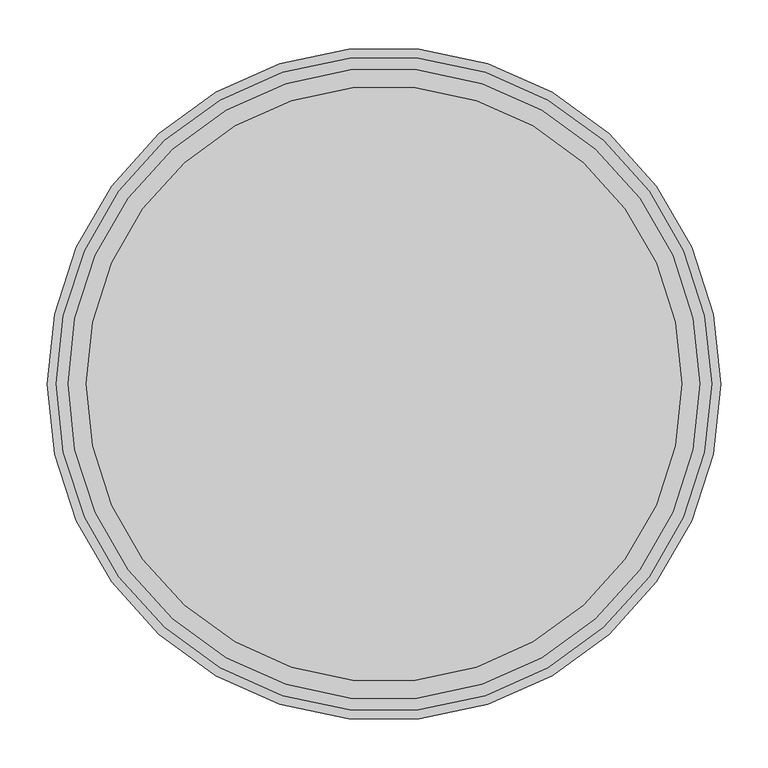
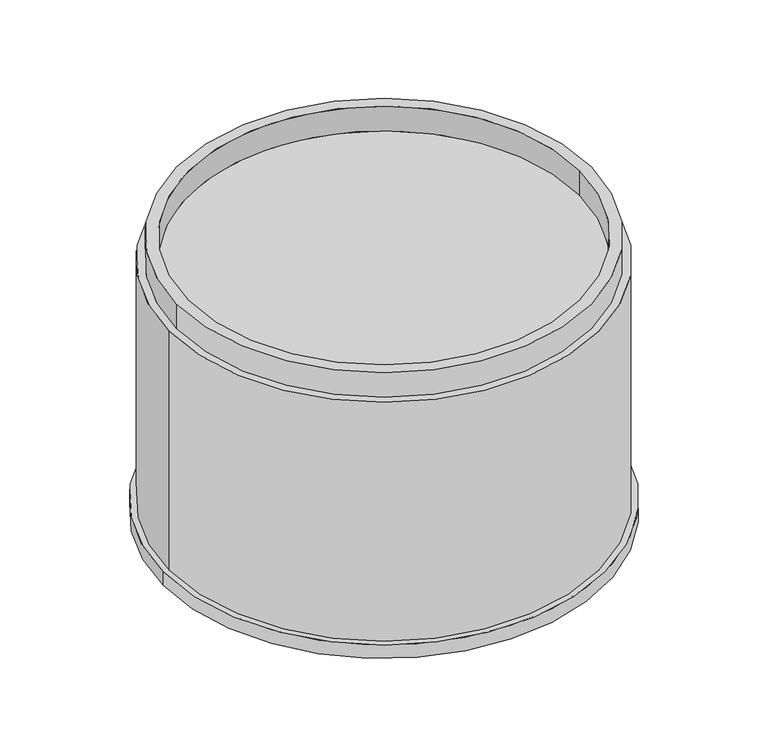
"""IFC4 building model written with IfcOpenShell, lengths in millimetres: valve geometry, Pipelife - Studnia PRO 630 - Kineta studni ślepa : 630 ślepa."""

from ifc_helpers import new_model, si_unit, point, frame, origin, origin_with_axes, origin_2d, place, context, project, spatial, polyline, circle_curve, trimmed, segment, composite_curve, outline, extrude, source, transform, mapped, element, save
from ifc_brep_helpers import plane_surface, cylinder_surface, revolved_surface, advanced_brep


def valve_56759144(model_context):
    return source(origin(), model_context, "Body", "SolidModel", [
        advanced_brep(
        [(346.5, 0.0, 23.0), (-346.5, 0.0, 23.0), (346.5, 0.0, 430.0), (-346.5, 0.0, 430.0), (334.0, 0.0, 430.0), (-334.0, 0.0, 430.0), (315.0, 0.0, 430.0), (-315.0, 0.0, 430.0), (334.0, 0.0, 472.0), (-334.0, 0.0, 472.0), (315.0, 0.0, 472.0), (-315.0, 0.0, 472.0)],
        [
            (0, 1, circle_curve(frame((0.0, 0.0, 23.0), z_axis=(0.0, 0.0, -1.0), x_axis=(-1.0, 0.0, 0.0)), 346.5)),
            (1, 0, circle_curve(frame((0.0, 0.0, 23.0), z_axis=(0.0, 0.0, -1.0), x_axis=(-1.0, 0.0, 0.0)), 346.5)),
            (2, 3, circle_curve(frame((0.0, 0.0, 430.0), z_axis=(0.0, 0.0, 1.0), x_axis=(-1.0, 0.0, 0.0)), 346.5)),
            (3, 2, circle_curve(frame((0.0, 0.0, 430.0), z_axis=(0.0, 0.0, 1.0), x_axis=(-1.0, 0.0, 0.0)), 346.5)),
            (4, 5, circle_curve(frame((0.0, 0.0, 430.0), z_axis=(0.0, 0.0, -1.0), x_axis=(-1.0, 0.0, 0.0)), 334.0)),
            (5, 4, circle_curve(frame((0.0, 0.0, 430.0), z_axis=(0.0, 0.0, -1.0), x_axis=(-1.0, 0.0, 0.0)), 334.0)),
            (6, 7, circle_curve(frame((0.0, 0.0, 430.0), z_axis=(0.0, 0.0, 1.0), x_axis=(-1.0, 0.0, 0.0)), 315.0)),
            (7, 6, circle_curve(frame((0.0, 0.0, 430.0), z_axis=(0.0, 0.0, 1.0), x_axis=(-1.0, 0.0, 0.0)), 315.0)),
            (0, 2),
            (3, 1),
            (8, 9, circle_curve(frame((0.0, 0.0, 472.0), z_axis=(0.0, 0.0, 1.0), x_axis=(-1.0, 0.0, 0.0)), 334.0)),
            (9, 8, circle_curve(frame((0.0, 0.0, 472.0), z_axis=(0.0, 0.0, 1.0), x_axis=(-1.0, 0.0, 0.0)), 334.0)),
            (10, 11, circle_curve(frame((0.0, 0.0, 472.0), z_axis=(0.0, 0.0, -1.0), x_axis=(-1.0, 0.0, 0.0)), 315.0)),
            (11, 10, circle_curve(frame((0.0, 0.0, 472.0), z_axis=(0.0, 0.0, -1.0), x_axis=(-1.0, 0.0, 0.0)), 315.0)),
            (9, 5),
            (4, 8),
            (11, 7),
            (6, 10),
        ],
        [
            plane_surface(frame((0.0, 0.0, 23.0), z_axis=(0.0, 0.0, -1.0), x_axis=(0.0, -1.0, 0.0))),
            plane_surface(frame((0.0, 0.0, 430.0), z_axis=(0.0, 0.0, 1.0), x_axis=(0.0, -1.0, 0.0))),
            cylinder_surface(frame((0.0, 0.0, 23.0), z_axis=(0.0, 0.0, -1.0), x_axis=(-1.0, 0.0, 0.0)), 346.5),
            plane_surface(frame((0.0, 0.0, 472.0), z_axis=(0.0, 0.0, 1.0), x_axis=(0.0, -1.0, 0.0))),
            cylinder_surface(frame((0.0, 0.0, 430.0), z_axis=(0.0, 0.0, -1.0), x_axis=(-1.0, 0.0, 0.0)), 334.0),
            revolved_surface(polyline([(-315.0, 0.0, 472.0), (-315.0, 0.0, 430.0)]), (0.0, 0.0, 430.0), (0.0, 0.0, 1.0)),
        ],
        [
            (0, [[1, 2]]),
            (1, [[3, 4], [5, 6]]),
            (1, [[7, 8]]),
            (2, [[-1, 9, -4, 10]]),
            (2, [[-2, -10, -3, -9]]),
            (3, [[11, 12], [13, 14]]),
            (4, [[-12, 15, -5, 16]]),
            (4, [[-11, -16, -6, -15]]),
            (5, [[-14, 17, -7, 18]]),
            (5, [[-13, -18, -8, -17]]),
        ],
    ),
        extrude(outline(composite_curve([segment(trimmed(circle_curve(origin_2d(), 356.0), [point((356.0, 0.0))], [point((-356.0, 0.0))], False, "CARTESIAN"), True, "CONTINUOUS"), segment(trimmed(circle_curve(origin_2d(), 356.0), [point((-356.0, 0.0))], [point((356.0, 0.0))], False, "CARTESIAN"), True, "CONTINUOUS")], self_intersect=False)), origin_with_axes(), (0.0, 0.0, 1.0), 23.0),
    ])


if __name__ == "__main__":
    model = new_model("IFC4")
    model_context = context("Model", 3, world=origin())
    ifc_project = project(units=[si_unit("LENGTHUNIT", "METRE", prefix="MILLI")], contexts=[model_context])
    site = spatial("IfcSite", under=ifc_project)
    building = spatial("IfcBuilding", under=site)
    placement = place(None, origin())
    valve_shape = valve_56759144(model_context)
    element("IfcValve", 1, ObjectType="Pipelife - Studnia PRO 630 - Kineta studni ślepa : 630 ślepa", at=placement, inside=building, context=model_context, shape_type="MappedRepresentation", body=[
        mapped(valve_shape, transform((0.0, 0.0, 0.0), x_axis=(1.0, 0.0, 0.0), y_axis=(0.0, 1.0, 0.0), z_axis=(0.0, 0.0, 1.0))),
    ])
    save(model, "model.ifc")
